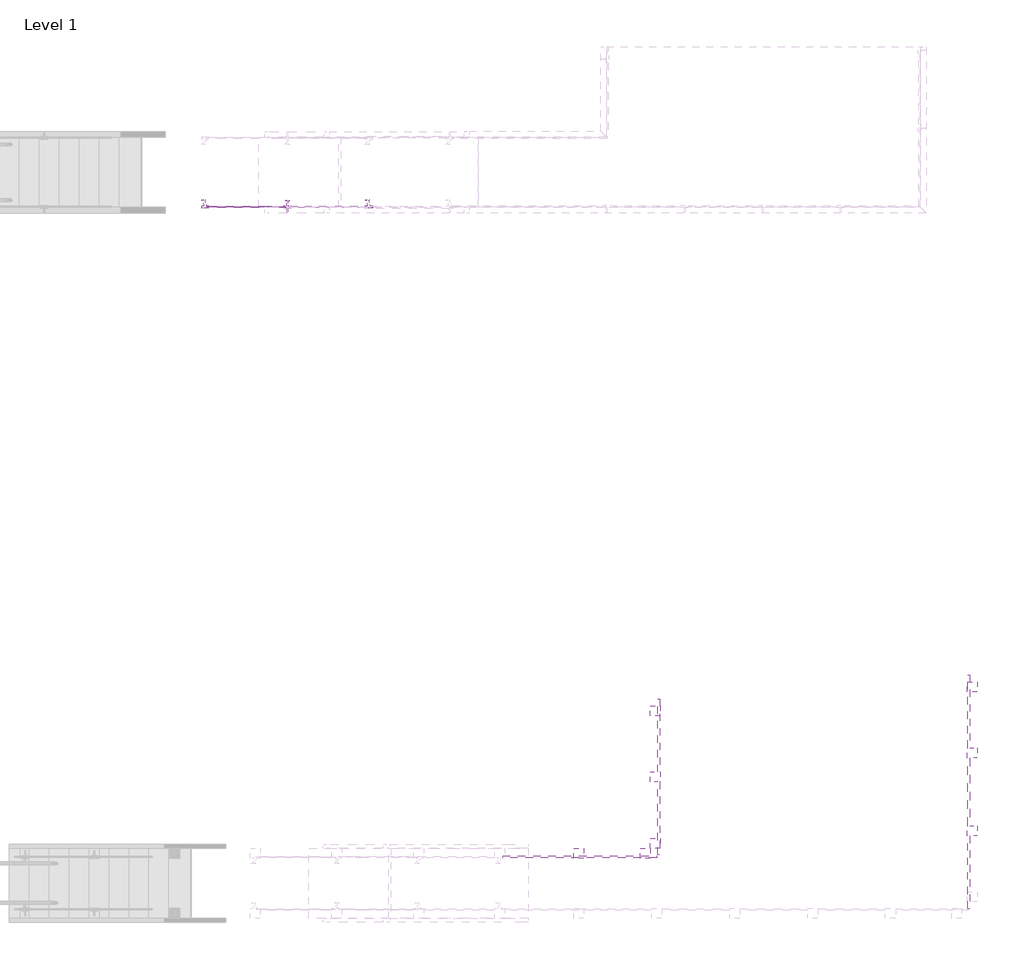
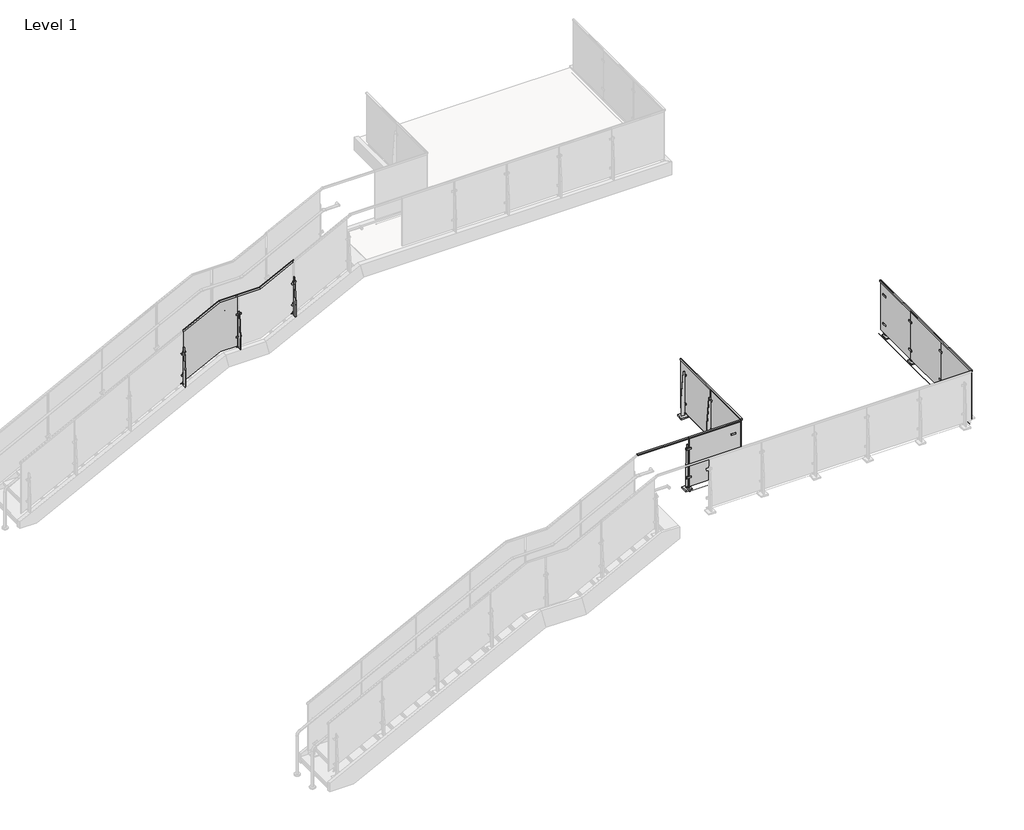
# One storey, part 26 of 37: 5 proxies, 5 railings.
"""IFC4 building model written with IfcOpenShell, lengths in millimetres."""

from ifc_helpers import new_model, si_unit, point, frame, frame_2d, origin, place, context, project, spatial, polyline, circle_curve, trimmed, segment, composite_curve, outline, extrude, faceted_brep, transform, mapped, element, save
from components import baluster_end_post_viva_solo_top_mount_e11f810b, baluster_end_post_viva_solo_top_mount_e7142cd7, baluster_end_post_viva_solo_top_mount_67941749, baluster_landing_panel_viva_solo_lower_standard_glass_5ef70e5d

model = new_model("IFC4")

# Units and contexts
model_context = context("Model", 3, world=origin())
ifc_project = project(units=[si_unit("LENGTHUNIT", "METRE", prefix="MILLI")], contexts=[model_context])

# Site, building, storey
site = spatial("IfcSite", under=ifc_project)
building = spatial("IfcBuilding", under=site)
storey = spatial("IfcBuildingStorey", under=building, Name="Level 1", Elevation=0.0)

# Proxies
placement = place(None, origin())
baluster_end_post_viva_solo_top_mount_shape = baluster_end_post_viva_solo_top_mount_e11f810b(model_context)
element("IfcBuildingElementProxy", 1, Name="Baluster-End-Post-VIVA-SOLO-Top Mount : ANCHORED TO CONCRETE_TOP MOUNT FOLD_STRAIGHT", ObjectType="Baluster-End-Post-VIVA-SOLO-Top Mount : ANCHORED TO CONCRETE_TOP MOUNT FOLD_STRAIGHT", at=placement, inside=storey, context=model_context, shape_type="MappedRepresentation", body=[
    mapped(baluster_end_post_viva_solo_top_mount_shape, transform((10529.1295611, 4520.5798159, 3047.492), x_axis=(0.0, -1.0, 0.0), y_axis=(1.0, 0.0, 0.0), z_axis=(0.0, 0.0, 1.0))),
])
element("IfcBuildingElementProxy", 2, Name="Baluster-End-Post-VIVA-SOLO-Top Mount : ANCHORED TO CONCRETE_TOP MOUNT FOLD_STRAIGHT", ObjectType="Baluster-End-Post-VIVA-SOLO-Top Mount : ANCHORED TO CONCRETE_TOP MOUNT FOLD_STRAIGHT", at=placement, inside=storey, context=model_context, shape_type="MappedRepresentation", body=[
    mapped(baluster_end_post_viva_solo_top_mount_shape, transform((14498.2173344, 6866.4403158, 3047.492), x_axis=(0.0, 1.0, 0.0), y_axis=(-1.0, 0.0, 0.0), z_axis=(0.0, 0.0, 1.0))),
])
baluster_end_post_viva_solo_top_mount_2_shape = baluster_end_post_viva_solo_top_mount_e7142cd7(model_context)
element("IfcBuildingElementProxy", 3, Name="Baluster-End-Post-VIVA-SOLO-Top Mount : ANCHORED TO CONCRETE_TOP MOUNT FOLD_STRAIGHT", ObjectType="Baluster-End-Post-VIVA-SOLO-Top Mount : ANCHORED TO CONCRETE_TOP MOUNT FOLD_STRAIGHT", at=placement, inside=storey, context=model_context, shape_type="MappedRepresentation", body=[
    mapped(baluster_end_post_viva_solo_top_mount_2_shape, transform((9449.6498344, 4457.464649, 3047.492), x_axis=(-1.0, 0.0, 0.0), y_axis=(0.0, -1.0, 0.0), z_axis=(0.0, 0.0, 1.0))),
])
baluster_end_post_viva_solo_top_mount_3_shape = baluster_end_post_viva_solo_top_mount_67941749(model_context)
element("IfcBuildingElementProxy", 4, Name="Baluster-End-Post-VIVA-SOLO-Top Mount : ANCHORED TO CONCRETE_TOP MOUNT FOLD_STRAIGHT", ObjectType="Baluster-End-Post-VIVA-SOLO-Top Mount : ANCHORED TO CONCRETE_TOP MOUNT FOLD_STRAIGHT", at=placement, inside=storey, context=model_context, shape_type="MappedRepresentation", body=[
    mapped(baluster_end_post_viva_solo_top_mount_3_shape, transform((10465.6498344, 4457.464649, 3047.492), x_axis=(-1.0, 0.0, 0.0), y_axis=(0.0, -1.0, 0.0), z_axis=(0.0, 0.0, 1.0))),
])
element("IfcBuildingElementProxy", 5, Name="Baluster-End-Post-VIVA-SOLO-Top Mount : ANCHORED TO CONCRETE_TOP MOUNT FOLD_STRAIGHT", ObjectType="Baluster-End-Post-VIVA-SOLO-Top Mount : ANCHORED TO CONCRETE_TOP MOUNT FOLD_STRAIGHT", at=placement, inside=storey, context=model_context, shape_type="MappedRepresentation", body=[
    mapped(baluster_end_post_viva_solo_top_mount_3_shape, transform((10529.1295611, 6552.5798159, 3047.492), x_axis=(0.0, -1.0, 0.0), y_axis=(1.0, 0.0, 0.0), z_axis=(0.0, 0.0, 1.0))),
])

# Railings
element("IfcRailing", 6, ObjectType="VIVA-SOLO-Glass-Top_Weld_Steel-Channel Mount-Stair-Landing", at=placement, inside=storey, context=model_context, shape_type="SolidModel", body=[
    faceted_brep([(4578.4721922, 12965.0576645, 2882.4016967), (4578.4721922, 12987.2826645, 2882.4016967), (4578.4721922, 12987.2826645, 2853.9005081), (4578.4721922, 12982.5201645, 2853.9005081), (4578.4721922, 12982.5201645, 2877.0577238), (4578.4721922, 12969.8201645, 2877.0577238), (4578.4721922, 12969.8201645, 2853.9005081), (4578.4721922, 12965.0576645, 2853.9005081), (5276.9721922, 12965.0576645, 3237.9478261), (5276.9721922, 12987.2826645, 3237.9478261), (5283.0647357, 12987.2826645, 3212.5478261), (5283.0647357, 12982.5201645, 3212.5478261), (5278.1145441, 12982.5201645, 3233.1853261), (5278.1145441, 12969.8201645, 3233.1853261), (5283.0647357, 12969.8201645, 3212.5478261), (5283.0647357, 12965.0576645, 3212.5478261), (6058.0221922, 12965.0576645, 3237.9478261), (6058.0221922, 12987.2826645, 3237.9478261), (6064.1147357, 12987.2826645, 3212.5478261), (6064.1147357, 12982.5201645, 3212.5478261), (6059.1645441, 12982.5201645, 3233.1853261), (6059.1645441, 12969.8201645, 3233.1853261), (6064.1147357, 12969.8201645, 3212.5478261), (6064.1147357, 12965.0576645, 3212.5478261), (6712.0721922, 12965.0576645, 3570.8682927), (6712.0721922, 12965.0576645, 3542.3671041), (6712.0721922, 12969.8201645, 3542.3671041), (6712.0721922, 12969.8201645, 3565.5243198), (6712.0721922, 12982.5201645, 3565.5243198), (6712.0721922, 12982.5201645, 3542.3671041), (6712.0721922, 12987.2826645, 3542.3671041), (6712.0721922, 12987.2826645, 3570.8682927)], [[[0, 1, 2, 3, 4, 5, 6, 7]], [[1, 0, 8, 9]], [[2, 1, 9, 10]], [[3, 2, 10, 11]], [[4, 3, 11, 12]], [[5, 4, 12, 13]], [[6, 5, 13, 14]], [[7, 6, 14, 15]], [[0, 7, 15, 8]], [[9, 8, 16, 17]], [[10, 9, 17, 18]], [[11, 10, 18, 19]], [[12, 11, 19, 20]], [[13, 12, 20, 21]], [[14, 13, 21, 22]], [[15, 14, 22, 23]], [[8, 15, 23, 16]], [[24, 25, 26, 27, 28, 29, 30, 31]], [[17, 16, 24, 31]], [[18, 17, 31, 30]], [[19, 18, 30, 29]], [[20, 19, 29, 28]], [[21, 20, 28, 27]], [[22, 21, 27, 26]], [[23, 22, 26, 25]], [[16, 23, 25, 24]]]),
    extrude(outline(polyline([(12957.9456645, 2907.7478261), (12957.9456645, 2157.4318261), (12894.4456645, 2157.4318261), (12894.4456645, 2374.3478261), (12932.5456645, 2907.7478261), (12957.9456645, 2907.7478261)])), frame((5638.9221922, 0.0, 0.0), z_axis=(1.0, 0.0, 0.0), x_axis=(0.0, 1.0, 0.0)), (0.0, 0.0, 1.0), 12.7),
    extrude(outline(composite_curve([segment(polyline([(13051.9414213, 2897.6353055), (13053.3185307, 2900.020529)]), True, "CONTINUOUS"), segment(trimmed(circle_curve(frame_2d((13058.3648823, 2924.9141895)), 25.4), [point((13053.3185307, 2900.020529))], [point((13064.7510956, 2900.330124))], True, "CARTESIAN"), True, "CONTINUOUS"), segment(polyline([(13064.7510956, 2900.330124), (13064.7510956, 2897.6255995)]), True, "CONTINUOUS"), segment(trimmed(circle_curve(frame_2d((13058.3648823, 2922.209665)), 25.4), [point((13064.7510956, 2897.6255995))], [point((13051.9414213, 2897.6353055))], False, "CARTESIAN"), True, "CONTINUOUS")], self_intersect=False)), frame((5619.8682449, 0.0, 0.0), z_axis=(1.0, 0.0, 0.0), x_axis=(0.0, 1.0, 0.0)), (0.0, 0.0, 1.0), 51.8675839),
    extrude(outline(polyline([(13064.3081645, 2897.436595), (13064.3081645, 2894.261595), (13000.8081645, 2832.349095), (12989.6956645, 2832.349095), (12989.6956645, 2862.511595), (12992.8706645, 2862.511595), (13051.6081645, 2894.261595), (13051.6081645, 2897.436595), (13064.3081645, 2897.436595)])), frame((5638.7668383, 0.0, 0.0), z_axis=(1.0, 0.0, 0.0), x_axis=(0.0, 1.0, 0.0)), (0.0, 0.0, 1.0), 12.6482649),
    extrude(outline(polyline([(5600.8221922, 12967.4706645), (5689.7221922, 12967.4706645), (5689.7221922, 12957.9456645), (5600.8221922, 12957.9456645), (5600.8221922, 12967.4706645)])), frame((0.0, 0.0, 2371.3228955), z_axis=(0.0, 0.0, 1.0), x_axis=(1.0, 0.0, 0.0)), (0.0, 0.0, 1.0), 31.75),
    extrude(outline(polyline([(5600.8221922, 12967.4706645), (5689.7221922, 12967.4706645), (5689.7221922, 12957.9456645), (5600.8221922, 12957.9456645), (5600.8221922, 12967.4706645)])), frame((0.0, 0.0, 2831.6470448), z_axis=(0.0, 0.0, 1.0), x_axis=(1.0, 0.0, 0.0)), (0.0, 0.0, 1.0), 31.75),
    extrude(outline(polyline([(5600.8221922, 12989.6956645), (5689.7221922, 12989.6956645), (5689.7221922, 12980.1706645), (5600.8221922, 12980.1706645), (5600.8221922, 12989.6956645)])), frame((0.0, 0.0, 2371.3228955), z_axis=(0.0, 0.0, 1.0), x_axis=(1.0, 0.0, 0.0)), (0.0, 0.0, 1.0), 31.75),
    extrude(outline(polyline([(5600.8221922, 12989.6956645), (5689.7221922, 12989.6956645), (5689.7221922, 12980.1706645), (5600.8221922, 12980.1706645), (5600.8221922, 12989.6956645)])), frame((0.0, 0.0, 2831.6470448), z_axis=(0.0, 0.0, 1.0), x_axis=(1.0, 0.0, 0.0)), (0.0, 0.0, 1.0), 31.75),
    extrude(outline(polyline([(2195.5318261, 5689.7221922), (2195.5318261, 5600.8221922), (2189.1818261, 5600.8221922), (2167.2671774, 5645.2721922), (2189.1818261, 5689.7221922), (2195.5318261, 5689.7221922)])), frame((0.0, 12967.4706645, 0.0), z_axis=(0.0, 1.0, 0.0), x_axis=(0.0, 0.0, 1.0)), (0.0, 0.0, 1.0), 12.7),
    extrude(outline(composite_curve([segment(trimmed(circle_curve(frame_2d((2387.1978955, 5645.2721922)), 6.35), [point((2387.1978955, 5651.6221922))], [point((2387.1978955, 5638.9221922))], False, "CARTESIAN"), True, "CONTINUOUS"), segment(trimmed(circle_curve(frame_2d((2387.1978955, 5645.2721922)), 6.35), [point((2387.1978955, 5638.9221922))], [point((2387.1978955, 5651.6221922))], False, "CARTESIAN"), True, "CONTINUOUS")], self_intersect=False)), frame((0.0, 12967.4706645, 0.0), z_axis=(0.0, 1.0, 0.0), x_axis=(0.0, 0.0, 1.0)), (0.0, 0.0, 1.0), 12.7),
    extrude(outline(composite_curve([segment(trimmed(circle_curve(frame_2d((2847.5220448, 5645.2721922)), 6.35), [point((2847.5220448, 5651.6221922))], [point((2847.5220448, 5638.9221922))], False, "CARTESIAN"), True, "CONTINUOUS"), segment(trimmed(circle_curve(frame_2d((2847.5220448, 5645.2721922)), 6.35), [point((2847.5220448, 5638.9221922))], [point((2847.5220448, 5651.6221922))], False, "CARTESIAN"), True, "CONTINUOUS")], self_intersect=False)), frame((0.0, 12967.4706645, 0.0), z_axis=(0.0, 1.0, 0.0), x_axis=(0.0, 0.0, 1.0)), (0.0, 0.0, 1.0), 12.7),
    extrude(outline(composite_curve([segment(trimmed(circle_curve(frame_2d((2179.6568261, 5645.2721922)), 11.1125), [point((2179.6568261, 5656.3846922))], [point((2179.6568261, 5634.1596922))], False, "CARTESIAN"), True, "CONTINUOUS"), segment(trimmed(circle_curve(frame_2d((2179.6568261, 5645.2721922)), 11.1125), [point((2179.6568261, 5634.1596922))], [point((2179.6568261, 5656.3846922))], False, "CARTESIAN"), True, "CONTINUOUS")], self_intersect=False)), frame((0.0, 12957.9456645, 0.0), z_axis=(0.0, 1.0, 0.0), x_axis=(0.0, 0.0, 1.0)), (0.0, 0.0, 1.0), 25.4),
    extrude(outline(polyline([(-12.7, 0.0), (-12.7, 3.175), (50.8, 65.0875), (61.9125, 65.0875), (61.9125, 34.925), (58.7375, 34.925), (0.0, 3.175), (0.0, 0.0), (-12.7, 0.0)])), frame((6684.4545874, 13054.1451983, 3158.6194694), z_axis=(0.8987940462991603, 0.0, 0.4383711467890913), x_axis=(0.0, -1.0, 0.0)), (0.0, 0.0, 1.0), 12.7),
    extrude(outline(polyline([(12960.1681645, 3240.6682927), (12960.1681645, 2450.7536861), (12896.6681645, 2450.7536861), (12896.6681645, 2707.2682927), (12934.7681645, 3240.6682927), (12960.1681645, 3240.6682927)])), frame((6705.7221922, 0.0, 0.0), z_axis=(1.0, 0.0, 0.0), x_axis=(0.0, 1.0, 0.0)), (0.0, 0.0, 1.0), 12.7),
    extrude(outline(polyline([(0.0, -88.9), (0.0, 0.0), (9.525, 0.0), (9.525, -88.9), (0.0, -88.9)])), frame((6758.993764, 12970.0076983, 2684.4967638), z_axis=(-0.4383711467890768, 0.0, 0.8987940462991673), x_axis=(0.0, -1.0, 0.0)), (0.0, 0.0, 1.0), 31.75),
    extrude(outline(polyline([(0.0, -88.9), (0.0, 0.0), (9.525, 0.0), (9.525, -88.9), (0.0, -88.9)])), frame((6758.993764, 12992.2326983, 3121.6750484), z_axis=(-0.4383711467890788, 0.0, 0.8987940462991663), x_axis=(0.0, -1.0, 0.0)), (0.0, 0.0, 1.0), 31.75),
    extrude(outline(polyline([(0.0, -88.9), (0.0, 0.0), (9.525, 0.0), (9.525, -88.9), (0.0, -88.9)])), frame((6758.993764, 12970.0076983, 3121.6750484), z_axis=(-0.4383711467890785, 0.0, 0.8987940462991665), x_axis=(0.0, -1.0, 0.0)), (0.0, 0.0, 1.0), 31.75),
    extrude(outline(polyline([(0.0, -88.9), (0.0, 0.0), (9.525, 0.0), (9.525, -88.9), (0.0, -88.9)])), frame((6758.993764, 12992.2326983, 2684.4967638), z_axis=(-0.43837114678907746, 0.0, 0.898794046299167), x_axis=(0.0, -1.0, 0.0)), (0.0, 0.0, 1.0), 31.75),
    extrude(outline(polyline([(2527.9448447, 6747.8451494), (2533.6521869, 6745.0614927), (2494.6809919, 6665.1587019), (2488.9736497, 6667.9423587), (2488.7624914, 6717.5005038), (2527.9448447, 6747.8451494)])), frame((0.0, 12970.0076983, 0.0), z_axis=(0.0, 1.0, 0.0), x_axis=(0.0, 0.0, 1.0)), (0.0, 0.0, 1.0), 12.7),
    extrude(outline(composite_curve([segment(polyline([(0.0, 0.0), (2.8057896, 0.0)]), True, "CONTINUOUS"), segment(trimmed(circle_curve(frame_2d((26.8875078, 8.0765616)), 25.4), [point((2.8057896, 0.0))], [point((8.7901892, -9.7460941))], True, "CARTESIAN"), True, "CONTINUOUS"), segment(polyline([(8.7901892, -9.7460941), (6.4034746, -11.1240644)]), True, "CONTINUOUS"), segment(trimmed(circle_curve(frame_2d((24.5007933, 6.6985913)), 25.4), [point((6.4034746, -11.1240644))], [point((0.0, 0.0))], False, "CARTESIAN"), True, "CONTINUOUS")], self_intersect=False)), frame((6668.5334698, 13054.0459519, 3147.8062707), z_axis=(0.8987940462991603, 0.0, 0.4383711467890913), x_axis=(-0.37964054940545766, 0.5000000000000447, 0.7783784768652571)), (0.0, 0.0, 1.0), 50.8),
    extrude(outline(composite_curve([segment(trimmed(circle_curve(frame_2d((2697.5241467, 6712.0832267)), 6.35), [point((2697.5241467, 6718.4332267))], [point((2697.5241467, 6705.7332267))], False, "CARTESIAN"), True, "CONTINUOUS"), segment(trimmed(circle_curve(frame_2d((2697.5241467, 6712.0832267)), 6.35), [point((2697.5241467, 6705.7332267))], [point((2697.5241467, 6718.4332267))], False, "CARTESIAN"), True, "CONTINUOUS")], self_intersect=False)), frame((0.0, 12970.0076983, 0.0), z_axis=(0.0, 1.0, 0.0), x_axis=(0.0, 0.0, 1.0)), (0.0, 0.0, 1.0), 12.7),
    extrude(outline(composite_curve([segment(trimmed(circle_curve(frame_2d((3115.7632563, 6712.0832267)), 6.35), [point((3115.7632563, 6718.4332267))], [point((3115.7632563, 6705.7332267))], False, "CARTESIAN"), True, "CONTINUOUS"), segment(trimmed(circle_curve(frame_2d((3115.7632563, 6712.0832267)), 6.35), [point((3115.7632563, 6705.7332267))], [point((3115.7632563, 6718.4332267))], False, "CARTESIAN"), True, "CONTINUOUS")], self_intersect=False)), frame((0.0, 12970.0076983, 0.0), z_axis=(0.0, 1.0, 0.0), x_axis=(0.0, 0.0, 1.0)), (0.0, 0.0, 1.0), 12.7),
    extrude(outline(composite_curve([segment(trimmed(circle_curve(frame_2d((2474.6396833, 6712.0832267)), 11.1125), [point((2474.6396833, 6723.1957267))], [point((2474.6396833, 6700.9707267))], False, "CARTESIAN"), True, "CONTINUOUS"), segment(trimmed(circle_curve(frame_2d((2474.6396833, 6712.0832267)), 11.1125), [point((2474.6396833, 6700.9707267))], [point((2474.6396833, 6723.1957267))], False, "CARTESIAN"), True, "CONTINUOUS")], self_intersect=False)), frame((0.0, 12960.4826983, 0.0), z_axis=(0.0, 1.0, 0.0), x_axis=(0.0, 0.0, 1.0)), (0.0, 0.0, 1.0), 25.4),
    extrude(outline(polyline([(-12.7, 0.0), (-12.7, 3.175), (50.8, 65.0874999), (61.9125, 65.0874999), (61.9125, 34.9249999), (58.7375, 34.9249999), (0.0, 3.175), (0.0, 0.0), (-12.7, 0.0)])), frame((4550.8545874, 13054.1451983, 2470.1528734), z_axis=(0.8987940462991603, 0.0, 0.4383711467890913), x_axis=(0.0, -1.0, 0.0)), (0.0, 0.0, 1.0), 12.7),
    extrude(outline(polyline([(12960.1681645, 2552.2016967), (12960.1681645, 1762.2870902), (12896.6681645, 1762.2870902), (12896.6681645, 2018.8016967), (12934.7681645, 2552.2016967), (12960.1681645, 2552.2016967)])), frame((4572.1221922, 0.0, 0.0), z_axis=(1.0, 0.0, 0.0), x_axis=(0.0, 1.0, 0.0)), (0.0, 0.0, 1.0), 12.7),
    extrude(outline(polyline([(0.0, -88.9), (0.0, 0.0), (9.525, 0.0), (9.525, -88.9), (0.0, -88.9)])), frame((4625.393764, 12970.0076983, 1996.0301678), z_axis=(-0.4383711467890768, 0.0, 0.8987940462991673), x_axis=(0.0, -1.0, 0.0)), (0.0, 0.0, 1.0), 31.75),
    extrude(outline(polyline([(0.0, -88.9), (0.0, 0.0), (9.525, 0.0), (9.525, -88.9), (0.0, -88.9)])), frame((4625.393764, 12992.2326983, 2433.2084524), z_axis=(-0.4383711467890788, 0.0, 0.8987940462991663), x_axis=(0.0, -1.0, 0.0)), (0.0, 0.0, 1.0), 31.75),
    extrude(outline(polyline([(0.0, -88.9), (0.0, 0.0), (9.525, 0.0), (9.525, -88.9), (0.0, -88.9)])), frame((4625.393764, 12970.0076983, 2433.2084524), z_axis=(-0.4383711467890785, 0.0, 0.8987940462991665), x_axis=(0.0, -1.0, 0.0)), (0.0, 0.0, 1.0), 31.75),
    extrude(outline(polyline([(0.0, -88.9), (0.0, 0.0), (9.525, 0.0), (9.525, -88.9), (0.0, -88.9)])), frame((4625.393764, 12992.2326983, 1996.0301678), z_axis=(-0.43837114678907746, 0.0, 0.898794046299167), x_axis=(0.0, -1.0, 0.0)), (0.0, 0.0, 1.0), 31.75),
    extrude(outline(polyline([(1839.4782487, 4614.2451494), (1845.1855909, 4611.4614927), (1806.214396, 4531.5587019), (1800.5070538, 4534.3423587), (1800.2958954, 4583.9005038), (1839.4782487, 4614.2451494)])), frame((0.0, 12970.0076983, 0.0), z_axis=(0.0, 1.0, 0.0), x_axis=(0.0, 0.0, 1.0)), (0.0, 0.0, 1.0), 12.7),
    extrude(outline(composite_curve([segment(polyline([(0.0, 0.0), (2.8057896, 0.0)]), True, "CONTINUOUS"), segment(trimmed(circle_curve(frame_2d((26.8875079, 8.0765616)), 25.4), [point((2.8057896, 0.0))], [point((8.7901892, -9.7460941))], True, "CARTESIAN"), True, "CONTINUOUS"), segment(polyline([(8.7901892, -9.7460941), (6.4034746, -11.1240644)]), True, "CONTINUOUS"), segment(trimmed(circle_curve(frame_2d((24.5007933, 6.6985913)), 25.4), [point((6.4034746, -11.1240644))], [point((0.0, 0.0))], False, "CARTESIAN"), True, "CONTINUOUS")], self_intersect=False)), frame((4534.9334698, 13054.0459519, 2459.3396747), z_axis=(0.8987940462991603, 0.0, 0.4383711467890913), x_axis=(-0.37964054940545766, 0.5000000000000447, 0.7783784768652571)), (0.0, 0.0, 1.0), 50.8),
    extrude(outline(composite_curve([segment(trimmed(circle_curve(frame_2d((2009.0575507, 4578.4832267)), 6.35), [point((2009.0575507, 4584.8332267))], [point((2009.0575507, 4572.1332267))], False, "CARTESIAN"), True, "CONTINUOUS"), segment(trimmed(circle_curve(frame_2d((2009.0575507, 4578.4832267)), 6.35), [point((2009.0575507, 4572.1332267))], [point((2009.0575507, 4584.8332267))], False, "CARTESIAN"), True, "CONTINUOUS")], self_intersect=False)), frame((0.0, 12970.0076983, 0.0), z_axis=(0.0, 1.0, 0.0), x_axis=(0.0, 0.0, 1.0)), (0.0, 0.0, 1.0), 12.7),
    extrude(outline(composite_curve([segment(trimmed(circle_curve(frame_2d((2427.2966603, 4578.4832267)), 6.35), [point((2427.2966603, 4584.8332267))], [point((2427.2966603, 4572.1332267))], False, "CARTESIAN"), True, "CONTINUOUS"), segment(trimmed(circle_curve(frame_2d((2427.2966603, 4578.4832267)), 6.35), [point((2427.2966603, 4572.1332267))], [point((2427.2966603, 4584.8332267))], False, "CARTESIAN"), True, "CONTINUOUS")], self_intersect=False)), frame((0.0, 12970.0076983, 0.0), z_axis=(0.0, 1.0, 0.0), x_axis=(0.0, 0.0, 1.0)), (0.0, 0.0, 1.0), 12.7),
    extrude(outline(composite_curve([segment(trimmed(circle_curve(frame_2d((1786.1730873, 4578.4832267)), 11.1125), [point((1786.1730873, 4589.5957267))], [point((1786.1730873, 4567.3707267))], False, "CARTESIAN"), True, "CONTINUOUS"), segment(trimmed(circle_curve(frame_2d((1786.1730873, 4578.4832267)), 11.1125), [point((1786.1730873, 4567.3707267))], [point((1786.1730873, 4589.5957267))], False, "CARTESIAN"), True, "CONTINUOUS")], self_intersect=False)), frame((0.0, 12960.4826983, 0.0), z_axis=(0.0, 1.0, 0.0), x_axis=(0.0, 0.0, 1.0)), (0.0, 0.0, 1.0), 25.4),
])
baluster_landing_panel_viva_solo_lower_standard_glass_shape = baluster_landing_panel_viva_solo_lower_standard_glass_5ef70e5d(model_context)
element("IfcRailing", 7, ObjectType="Baluster-Landing-Panel-VIVA-SOLO-Lower : Standard_Glass", at=placement, inside=storey, context=model_context, shape_type="MappedRepresentation", body=[
    mapped(baluster_landing_panel_viva_solo_lower_standard_glass_shape, transform((4598.4721389, 12936.4191645, 2120.3478261), x_axis=(0.0, 1.0, 0.0), y_axis=(-1.0, 0.0, 0.0), z_axis=(0.0, 0.0, 1.0))),
])
element("IfcRailing", 8, ObjectType="VIVA-SOLO-Glass-Floor Mount-Straight", at=placement, inside=storey, context=model_context, shape_type="SweptSolid", body=[
    extrude(outline(composite_curve([segment(trimmed(circle_curve(frame_2d((3047.746, 14498.2173344)), 0.254), [point((3047.746, 14498.4713344))], [point((3047.746, 14497.9633344))], False, "CARTESIAN"), True, "CONTINUOUS"), segment(trimmed(circle_curve(frame_2d((3047.746, 14498.2173344)), 0.254), [point((3047.746, 14497.9633344))], [point((3047.746, 14498.4713344))], False, "CARTESIAN"), True, "CONTINUOUS")], self_intersect=False)), frame((0.0, 3818.4403158, 0.0), z_axis=(0.0, 1.0, 0.0), x_axis=(0.0, 0.0, 1.0)), (0.0, 0.0, 1.0), 3048.0),
    extrude(outline(composite_curve([segment(trimmed(circle_curve(frame_2d((3047.746, 14498.2173344)), 0.254), [point((3047.746, 14498.4713344))], [point((3047.746, 14497.9633344))], False, "CARTESIAN"), True, "CONTINUOUS"), segment(trimmed(circle_curve(frame_2d((3047.746, 14498.2173344)), 0.254), [point((3047.746, 14497.9633344))], [point((3047.746, 14498.4713344))], False, "CARTESIAN"), True, "CONTINUOUS")], self_intersect=False)), frame((0.0, 3818.4403158, 0.0), z_axis=(0.0, 1.0, 0.0), x_axis=(0.0, 0.0, 1.0)), (0.0, 0.0, 1.0), 3048.0),
    extrude(outline(polyline([(4127.5, 14545.5248344), (4127.5, 14523.2998344), (4102.1, 14523.2998344), (4102.1, 14528.0623344), (4122.7375, 14528.0623344), (4122.7375, 14540.7623344), (4102.1, 14540.7623344), (4102.1, 14545.5248344), (4127.5, 14545.5248344)])), frame((0.0, 3818.4403158, 0.0), z_axis=(0.0, 1.0, 0.0), x_axis=(0.0, 0.0, 1.0)), (0.0, 0.0, 1.0), 3048.0),
    extrude(outline(polyline([(14528.0623344, 5863.5233624), (14528.0623344, 6854.1233624), (14540.7623344, 6854.1233624), (14540.7623344, 5863.5233624), (14528.0623344, 5863.5233624)])), frame((0.0, 0.0, 3124.2), z_axis=(0.0, 0.0, 1.0), x_axis=(1.0, 0.0, 0.0)), (0.0, 0.0, 1.0), 998.474),
    extrude(outline(polyline([(3962.4, 14550.2873344), (3048.0, 14550.2873344), (3048.0, 14613.7873344), (3429.0, 14613.7873344), (3962.4, 14575.6873344), (3962.4, 14550.2873344)])), frame((0.0, 5844.0903158, 0.0), z_axis=(0.0, 1.0, 0.0), x_axis=(0.0, 0.0, 1.0)), (0.0, 0.0, 1.0), 12.7),
    extrude(outline(polyline([(14516.1560844, 5916.3215658), (14647.9185844, 5916.3215658), (14647.9185844, 5784.5590658), (14516.1560844, 5784.5590658), (14516.1560844, 5916.3215658)])), frame((0.0, 0.0, 3048.0), z_axis=(0.0, 0.0, 1.0), x_axis=(1.0, 0.0, 0.0)), (0.0, 0.0, 1.0), 25.4),
    extrude(outline(polyline([(14540.7623344, 5805.9903158), (14540.7623344, 5894.8903158), (14550.2873344, 5894.8903158), (14550.2873344, 5805.9903158), (14540.7623344, 5805.9903158)])), frame((0.0, 0.0, 3299.9910694), z_axis=(0.0, 0.0, 1.0), x_axis=(1.0, 0.0, 0.0)), (0.0, 0.0, 1.0), 31.75),
    extrude(outline(polyline([(14540.7623344, 5805.9903158), (14540.7623344, 5894.8903158), (14550.2873344, 5894.8903158), (14550.2873344, 5805.9903158), (14540.7623344, 5805.9903158)])), frame((0.0, 0.0, 3886.2992187), z_axis=(0.0, 0.0, 1.0), x_axis=(1.0, 0.0, 0.0)), (0.0, 0.0, 1.0), 31.75),
    extrude(outline(polyline([(14518.5373344, 5805.9903158), (14518.5373344, 5894.8903158), (14528.0623344, 5894.8903158), (14528.0623344, 5805.9903158), (14518.5373344, 5805.9903158)])), frame((0.0, 0.0, 3299.9910694), z_axis=(0.0, 0.0, 1.0), x_axis=(1.0, 0.0, 0.0)), (0.0, 0.0, 1.0), 31.75),
    extrude(outline(polyline([(14518.5373344, 5805.9903158), (14518.5373344, 5894.8903158), (14528.0623344, 5894.8903158), (14528.0623344, 5805.9903158), (14518.5373344, 5805.9903158)])), frame((0.0, 0.0, 3886.2992187), z_axis=(0.0, 0.0, 1.0), x_axis=(1.0, 0.0, 0.0)), (0.0, 0.0, 1.0), 31.75),
    extrude(outline(polyline([(5894.8903158, 3124.2), (5894.8903158, 3117.85), (5850.4403158, 3095.9353513), (5805.9903158, 3117.85), (5805.9903158, 3124.2), (5894.8903158, 3124.2)])), frame((14528.0623344, 0.0, 0.0), z_axis=(1.0, 0.0, 0.0), x_axis=(0.0, 1.0, 0.0)), (0.0, 0.0, 1.0), 12.7),
    extrude(outline(composite_curve([segment(trimmed(circle_curve(frame_2d((5850.4403158, 3315.8660694)), 6.35), [point((5856.7903158, 3315.8660694))], [point((5844.0903158, 3315.8660694))], False, "CARTESIAN"), True, "CONTINUOUS"), segment(trimmed(circle_curve(frame_2d((5850.4403158, 3315.8660694)), 6.35), [point((5844.0903158, 3315.8660694))], [point((5856.7903158, 3315.8660694))], False, "CARTESIAN"), True, "CONTINUOUS")], self_intersect=False)), frame((14528.0623344, 0.0, 0.0), z_axis=(1.0, 0.0, 0.0), x_axis=(0.0, 1.0, 0.0)), (0.0, 0.0, 1.0), 12.7),
    extrude(outline(composite_curve([segment(trimmed(circle_curve(frame_2d((5850.4403158, 3902.1742187)), 6.35), [point((5856.7903158, 3902.1742187))], [point((5844.0903158, 3902.1742187))], False, "CARTESIAN"), True, "CONTINUOUS"), segment(trimmed(circle_curve(frame_2d((5850.4403158, 3902.1742187)), 6.35), [point((5844.0903158, 3902.1742187))], [point((5856.7903158, 3902.1742187))], False, "CARTESIAN"), True, "CONTINUOUS")], self_intersect=False)), frame((14528.0623344, 0.0, 0.0), z_axis=(1.0, 0.0, 0.0), x_axis=(0.0, 1.0, 0.0)), (0.0, 0.0, 1.0), 12.7),
    extrude(outline(composite_curve([segment(trimmed(circle_curve(frame_2d((5850.4403158, 3108.325)), 11.1125), [point((5861.5528158, 3108.325))], [point((5839.3278158, 3108.325))], False, "CARTESIAN"), True, "CONTINUOUS"), segment(trimmed(circle_curve(frame_2d((5850.4403158, 3108.325)), 11.1125), [point((5839.3278158, 3108.325))], [point((5861.5528158, 3108.325))], False, "CARTESIAN"), True, "CONTINUOUS")], self_intersect=False)), frame((14524.8873344, 0.0, 0.0), z_axis=(1.0, 0.0, 0.0), x_axis=(0.0, 1.0, 0.0)), (0.0, 0.0, 1.0), 25.4),
    extrude(outline(polyline([(14528.0623344, 4847.5233624), (14528.0623344, 5838.1233624), (14540.7623344, 5838.1233624), (14540.7623344, 4847.5233624), (14528.0623344, 4847.5233624)])), frame((0.0, 0.0, 3124.2), z_axis=(0.0, 0.0, 1.0), x_axis=(1.0, 0.0, 0.0)), (0.0, 0.0, 1.0), 998.474),
    extrude(outline(polyline([(3962.4, 14550.2873344), (3048.0, 14550.2873344), (3048.0, 14613.7873344), (3429.0, 14613.7873344), (3962.4, 14575.6873344), (3962.4, 14550.2873344)])), frame((0.0, 4828.0903158, 0.0), z_axis=(0.0, 1.0, 0.0), x_axis=(0.0, 0.0, 1.0)), (0.0, 0.0, 1.0), 12.7),
    extrude(outline(polyline([(14516.1560844, 4900.3215658), (14647.9185844, 4900.3215658), (14647.9185844, 4768.5590658), (14516.1560844, 4768.5590658), (14516.1560844, 4900.3215658)])), frame((0.0, 0.0, 3048.0), z_axis=(0.0, 0.0, 1.0), x_axis=(1.0, 0.0, 0.0)), (0.0, 0.0, 1.0), 25.4),
    extrude(outline(polyline([(14540.7623344, 4789.9903158), (14540.7623344, 4878.8903158), (14550.2873344, 4878.8903158), (14550.2873344, 4789.9903158), (14540.7623344, 4789.9903158)])), frame((0.0, 0.0, 3299.9910694), z_axis=(0.0, 0.0, 1.0), x_axis=(1.0, 0.0, 0.0)), (0.0, 0.0, 1.0), 31.75),
    extrude(outline(polyline([(14540.7623344, 4789.9903158), (14540.7623344, 4878.8903158), (14550.2873344, 4878.8903158), (14550.2873344, 4789.9903158), (14540.7623344, 4789.9903158)])), frame((0.0, 0.0, 3886.2992187), z_axis=(0.0, 0.0, 1.0), x_axis=(1.0, 0.0, 0.0)), (0.0, 0.0, 1.0), 31.75),
    extrude(outline(polyline([(14518.5373344, 4789.9903158), (14518.5373344, 4878.8903158), (14528.0623344, 4878.8903158), (14528.0623344, 4789.9903158), (14518.5373344, 4789.9903158)])), frame((0.0, 0.0, 3299.9910694), z_axis=(0.0, 0.0, 1.0), x_axis=(1.0, 0.0, 0.0)), (0.0, 0.0, 1.0), 31.75),
    extrude(outline(polyline([(14518.5373344, 4789.9903158), (14518.5373344, 4878.8903158), (14528.0623344, 4878.8903158), (14528.0623344, 4789.9903158), (14518.5373344, 4789.9903158)])), frame((0.0, 0.0, 3886.2992187), z_axis=(0.0, 0.0, 1.0), x_axis=(1.0, 0.0, 0.0)), (0.0, 0.0, 1.0), 31.75),
    extrude(outline(polyline([(4878.8903158, 3124.2), (4878.8903158, 3117.85), (4834.4403158, 3095.9353513), (4789.9903158, 3117.85), (4789.9903158, 3124.2), (4878.8903158, 3124.2)])), frame((14528.0623344, 0.0, 0.0), z_axis=(1.0, 0.0, 0.0), x_axis=(0.0, 1.0, 0.0)), (0.0, 0.0, 1.0), 12.7),
    extrude(outline(composite_curve([segment(trimmed(circle_curve(frame_2d((4834.4403158, 3315.8660694)), 6.35), [point((4840.7903158, 3315.8660694))], [point((4828.0903158, 3315.8660694))], False, "CARTESIAN"), True, "CONTINUOUS"), segment(trimmed(circle_curve(frame_2d((4834.4403158, 3315.8660694)), 6.35), [point((4828.0903158, 3315.8660694))], [point((4840.7903158, 3315.8660694))], False, "CARTESIAN"), True, "CONTINUOUS")], self_intersect=False)), frame((14528.0623344, 0.0, 0.0), z_axis=(1.0, 0.0, 0.0), x_axis=(0.0, 1.0, 0.0)), (0.0, 0.0, 1.0), 12.7),
    extrude(outline(composite_curve([segment(trimmed(circle_curve(frame_2d((4834.4403158, 3902.1742187)), 6.35), [point((4840.7903158, 3902.1742187))], [point((4828.0903158, 3902.1742187))], False, "CARTESIAN"), True, "CONTINUOUS"), segment(trimmed(circle_curve(frame_2d((4834.4403158, 3902.1742187)), 6.35), [point((4828.0903158, 3902.1742187))], [point((4840.7903158, 3902.1742187))], False, "CARTESIAN"), True, "CONTINUOUS")], self_intersect=False)), frame((14528.0623344, 0.0, 0.0), z_axis=(1.0, 0.0, 0.0), x_axis=(0.0, 1.0, 0.0)), (0.0, 0.0, 1.0), 12.7),
    extrude(outline(composite_curve([segment(trimmed(circle_curve(frame_2d((4834.4403158, 3108.325)), 11.1125), [point((4845.5528158, 3108.325))], [point((4823.3278158, 3108.325))], False, "CARTESIAN"), True, "CONTINUOUS"), segment(trimmed(circle_curve(frame_2d((4834.4403158, 3108.325)), 11.1125), [point((4823.3278158, 3108.325))], [point((4845.5528158, 3108.325))], False, "CARTESIAN"), True, "CONTINUOUS")], self_intersect=False)), frame((14524.8873344, 0.0, 0.0), z_axis=(1.0, 0.0, 0.0), x_axis=(0.0, 1.0, 0.0)), (0.0, 0.0, 1.0), 25.4),
    extrude(outline(polyline([(14528.0623344, 3831.5233624), (14528.0623344, 4822.1233624), (14540.7623344, 4822.1233624), (14540.7623344, 3831.5233624), (14528.0623344, 3831.5233624)])), frame((0.0, 0.0, 3124.2), z_axis=(0.0, 0.0, 1.0), x_axis=(1.0, 0.0, 0.0)), (0.0, 0.0, 1.0), 998.474),
])
element("IfcRailing", 9, ObjectType="VIVA-SOLO-Glass-Floor Mount-Straight", at=placement, inside=storey, context=model_context, shape_type="SolidModel", body=[
    extrude(outline(composite_curve([segment(trimmed(circle_curve(frame_2d((4457.464649, 3047.746)), 0.254), [point((4457.210649, 3047.746))], [point((4457.718649, 3047.746))], False, "CARTESIAN"), True, "CONTINUOUS"), segment(trimmed(circle_curve(frame_2d((4457.464649, 3047.746)), 0.254), [point((4457.718649, 3047.746))], [point((4457.210649, 3047.746))], False, "CARTESIAN"), True, "CONTINUOUS")], self_intersect=False)), frame((9449.6498344, 0.0, 0.0), z_axis=(1.0, 0.0, 0.0), x_axis=(0.0, 1.0, 0.0)), (0.0, 0.0, 1.0), 1016.0),
    extrude(outline(composite_curve([segment(trimmed(circle_curve(frame_2d((4457.464649, 3047.746)), 0.254), [point((4457.210649, 3047.746))], [point((4457.718649, 3047.746))], False, "CARTESIAN"), True, "CONTINUOUS"), segment(trimmed(circle_curve(frame_2d((4457.464649, 3047.746)), 0.254), [point((4457.718649, 3047.746))], [point((4457.210649, 3047.746))], False, "CARTESIAN"), True, "CONTINUOUS")], self_intersect=False)), frame((9449.6498344, 0.0, 0.0), z_axis=(1.0, 0.0, 0.0), x_axis=(0.0, 1.0, 0.0)), (0.0, 0.0, 1.0), 1016.0),
    faceted_brep([(10465.6498344, 4482.547149, 4127.5), (10465.6498344, 4482.547149, 4102.1), (10465.6498344, 4487.309649, 4102.1), (10465.6498344, 4487.309649, 4122.7375), (10465.6498344, 4500.009649, 4122.7375), (10465.6498344, 4500.009649, 4102.1), (10465.6498344, 4504.772149, 4102.1), (10465.6498344, 4504.772149, 4127.5), (9449.6498344, 4504.772149, 4127.5), (9449.6498344, 4482.547149, 4127.5), (9449.6498344, 4504.772149, 4102.1), (9449.6498344, 4500.009649, 4102.1), (9449.6498344, 4500.009649, 4122.7375), (9449.6498344, 4487.309649, 4122.7375), (9449.6498344, 4487.309649, 4102.1), (9449.6498344, 4482.547149, 4102.1), (8455.7236544, 4482.547149, 4127.5), (8455.7236544, 4504.772149, 4127.5), (8455.7236544, 4504.772149, 4102.1), (8455.7236544, 4500.009649, 4102.1), (8455.7236544, 4500.009649, 4122.7375), (8455.7236544, 4487.309649, 4122.7375), (8455.7236544, 4487.309649, 4102.1), (8455.7236544, 4482.547149, 4102.1)], [[[0, 1, 2, 3, 4, 5, 6, 7]], [[8, 9, 0, 7]], [[10, 8, 7, 6]], [[11, 10, 6, 5]], [[12, 11, 5, 4]], [[13, 12, 4, 3]], [[14, 13, 3, 2]], [[15, 14, 2, 1]], [[9, 15, 1, 0]], [[16, 17, 18, 19, 20, 21, 22, 23]], [[17, 16, 9, 8]], [[18, 17, 8, 10]], [[19, 18, 10, 11]], [[20, 19, 11, 12]], [[21, 20, 12, 13]], [[22, 21, 13, 14]], [[23, 22, 14, 15]], [[16, 23, 15, 9]]]),
    extrude(outline(polyline([(9462.732881, 4487.309649), (9462.732881, 4500.009649), (10453.332881, 4500.009649), (10453.332881, 4487.309649), (9462.732881, 4487.309649)])), frame((0.0, 0.0, 3124.2), z_axis=(0.0, 0.0, 1.0), x_axis=(1.0, 0.0, 0.0)), (0.0, 0.0, 1.0), 998.474),
])
element("IfcRailing", 10, ObjectType="VIVA-SOLO-Glass-Floor Mount-Straight", at=placement, inside=storey, context=model_context, shape_type="SweptSolid", body=[
    extrude(outline(composite_curve([segment(trimmed(circle_curve(frame_2d((3047.746, 10529.1295611)), 0.254), [point((3047.746, 10529.3835611))], [point((3047.746, 10528.8755611))], False, "CARTESIAN"), True, "CONTINUOUS"), segment(trimmed(circle_curve(frame_2d((3047.746, 10529.1295611)), 0.254), [point((3047.746, 10528.8755611))], [point((3047.746, 10529.3835611))], False, "CARTESIAN"), True, "CONTINUOUS")], self_intersect=False)), frame((0.0, 4520.5798159, 0.0), z_axis=(0.0, 1.0, 0.0), x_axis=(0.0, 0.0, 1.0)), (0.0, 0.0, 1.0), 2032.0),
    extrude(outline(composite_curve([segment(trimmed(circle_curve(frame_2d((3047.746, 10529.1295611)), 0.254), [point((3047.746, 10529.3835611))], [point((3047.746, 10528.8755611))], False, "CARTESIAN"), True, "CONTINUOUS"), segment(trimmed(circle_curve(frame_2d((3047.746, 10529.1295611)), 0.254), [point((3047.746, 10528.8755611))], [point((3047.746, 10529.3835611))], False, "CARTESIAN"), True, "CONTINUOUS")], self_intersect=False)), frame((0.0, 4520.5798159, 0.0), z_axis=(0.0, 1.0, 0.0), x_axis=(0.0, 0.0, 1.0)), (0.0, 0.0, 1.0), 2032.0),
    extrude(outline(polyline([(4127.5, 10504.0470611), (4127.5, 10481.8220611), (4102.1, 10481.8220611), (4102.1, 10486.5845611), (4122.7375, 10486.5845611), (4122.7375, 10499.2845611), (4102.1, 10499.2845611), (4102.1, 10504.0470611), (4127.5, 10504.0470611)])), frame((0.0, 4520.5798159, 0.0), z_axis=(0.0, 1.0, 0.0), x_axis=(0.0, 0.0, 1.0)), (0.0, 0.0, 1.0), 2032.0),
    extrude(outline(polyline([(10499.2845611, 5549.6628625), (10486.5845611, 5549.6628625), (10486.5845611, 6540.2628625), (10499.2845611, 6540.2628625), (10499.2845611, 5549.6628625)])), frame((0.0, 0.0, 3124.2), z_axis=(0.0, 0.0, 1.0), x_axis=(1.0, 0.0, 0.0)), (0.0, 0.0, 1.0), 998.474),
    extrude(outline(polyline([(3962.4, 10477.0595611), (3962.4, 10451.6595611), (3429.0, 10413.5595611), (3048.0, 10413.5595611), (3048.0, 10477.0595611), (3962.4, 10477.0595611)])), frame((0.0, 5530.2298159, 0.0), z_axis=(0.0, 1.0, 0.0), x_axis=(0.0, 0.0, 1.0)), (0.0, 0.0, 1.0), 12.7),
    extrude(outline(polyline([(10511.1908111, 5602.4610659), (10511.1908111, 5470.6985659), (10379.4283111, 5470.6985659), (10379.4283111, 5602.4610659), (10511.1908111, 5602.4610659)])), frame((0.0, 0.0, 3048.0), z_axis=(0.0, 0.0, 1.0), x_axis=(1.0, 0.0, 0.0)), (0.0, 0.0, 1.0), 25.4),
    extrude(outline(polyline([(10486.5845611, 5492.1298159), (10477.0595611, 5492.1298159), (10477.0595611, 5581.0298159), (10486.5845611, 5581.0298159), (10486.5845611, 5492.1298159)])), frame((0.0, 0.0, 3299.9910694), z_axis=(0.0, 0.0, 1.0), x_axis=(1.0, 0.0, 0.0)), (0.0, 0.0, 1.0), 31.75),
    extrude(outline(polyline([(10486.5845611, 5492.1298159), (10477.0595611, 5492.1298159), (10477.0595611, 5581.0298159), (10486.5845611, 5581.0298159), (10486.5845611, 5492.1298159)])), frame((0.0, 0.0, 3886.2992187), z_axis=(0.0, 0.0, 1.0), x_axis=(1.0, 0.0, 0.0)), (0.0, 0.0, 1.0), 31.75),
    extrude(outline(polyline([(10508.8095611, 5492.1298159), (10499.2845611, 5492.1298159), (10499.2845611, 5581.0298159), (10508.8095611, 5581.0298159), (10508.8095611, 5492.1298159)])), frame((0.0, 0.0, 3299.9910694), z_axis=(0.0, 0.0, 1.0), x_axis=(1.0, 0.0, 0.0)), (0.0, 0.0, 1.0), 31.75),
    extrude(outline(polyline([(10508.8095611, 5492.1298159), (10499.2845611, 5492.1298159), (10499.2845611, 5581.0298159), (10508.8095611, 5581.0298159), (10508.8095611, 5492.1298159)])), frame((0.0, 0.0, 3886.2992187), z_axis=(0.0, 0.0, 1.0), x_axis=(1.0, 0.0, 0.0)), (0.0, 0.0, 1.0), 31.75),
    extrude(outline(polyline([(5581.0298159, 3124.2), (5581.0298159, 3117.85), (5536.5798159, 3095.9353513), (5492.1298159, 3117.85), (5492.1298159, 3124.2), (5581.0298159, 3124.2)])), frame((10486.5845611, 0.0, 0.0), z_axis=(1.0, 0.0, 0.0), x_axis=(0.0, 1.0, 0.0)), (0.0, 0.0, 1.0), 12.7),
    extrude(outline(composite_curve([segment(trimmed(circle_curve(frame_2d((5536.5798159, 3315.8660694)), 6.35), [point((5542.9298159, 3315.8660694))], [point((5530.2298159, 3315.8660694))], False, "CARTESIAN"), True, "CONTINUOUS"), segment(trimmed(circle_curve(frame_2d((5536.5798159, 3315.8660694)), 6.35), [point((5530.2298159, 3315.8660694))], [point((5542.9298159, 3315.8660694))], False, "CARTESIAN"), True, "CONTINUOUS")], self_intersect=False)), frame((10486.5845611, 0.0, 0.0), z_axis=(1.0, 0.0, 0.0), x_axis=(0.0, 1.0, 0.0)), (0.0, 0.0, 1.0), 12.7),
    extrude(outline(composite_curve([segment(trimmed(circle_curve(frame_2d((5536.5798159, 3902.1742187)), 6.35), [point((5542.9298159, 3902.1742187))], [point((5530.2298159, 3902.1742187))], False, "CARTESIAN"), True, "CONTINUOUS"), segment(trimmed(circle_curve(frame_2d((5536.5798159, 3902.1742187)), 6.35), [point((5530.2298159, 3902.1742187))], [point((5542.9298159, 3902.1742187))], False, "CARTESIAN"), True, "CONTINUOUS")], self_intersect=False)), frame((10486.5845611, 0.0, 0.0), z_axis=(1.0, 0.0, 0.0), x_axis=(0.0, 1.0, 0.0)), (0.0, 0.0, 1.0), 12.7),
    extrude(outline(composite_curve([segment(trimmed(circle_curve(frame_2d((5536.5798159, 3108.325)), 11.1125), [point((5547.6923159, 3108.325))], [point((5525.4673159, 3108.325))], False, "CARTESIAN"), True, "CONTINUOUS"), segment(trimmed(circle_curve(frame_2d((5536.5798159, 3108.325)), 11.1125), [point((5525.4673159, 3108.325))], [point((5547.6923159, 3108.325))], False, "CARTESIAN"), True, "CONTINUOUS")], self_intersect=False)), frame((10477.0595611, 0.0, 0.0), z_axis=(1.0, 0.0, 0.0), x_axis=(0.0, 1.0, 0.0)), (0.0, 0.0, 1.0), 25.4),
    extrude(outline(polyline([(10499.2845611, 4533.6628625), (10486.5845611, 4533.6628625), (10486.5845611, 5524.2628625), (10499.2845611, 5524.2628625), (10499.2845611, 4533.6628625)])), frame((0.0, 0.0, 3124.2), z_axis=(0.0, 0.0, 1.0), x_axis=(1.0, 0.0, 0.0)), (0.0, 0.0, 1.0), 998.474),
])

save(model, "model.ifc")
